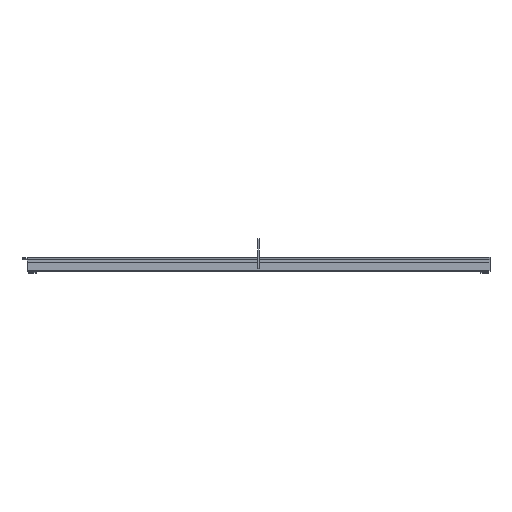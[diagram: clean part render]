
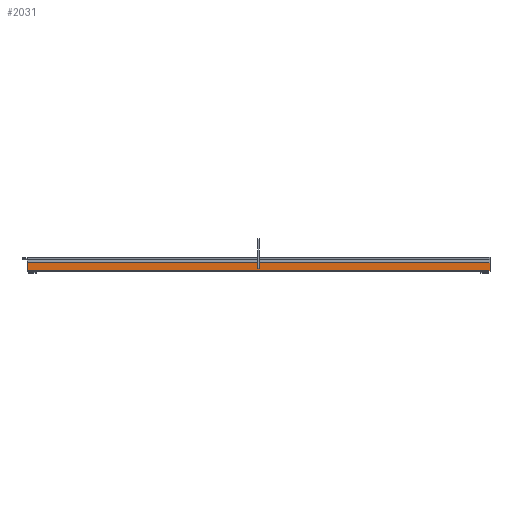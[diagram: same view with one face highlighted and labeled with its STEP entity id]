
A CAD part, left-side view. The second image highlights one B-rep face of the part: STEP entity #2031.
In plain terms, the highlighted planar face has unit normal (-1, 0, 0).
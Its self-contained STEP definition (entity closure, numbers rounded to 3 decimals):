
#962 = VECTOR ( 'NONE', #3016, 1000. ) ;
#1131 = LINE ( 'NONE', #16749, #3352 ) ;
#2031 = ADVANCED_FACE ( 'NONE', ( #17801 ), #17912, .F. ) ;
#2087 = VERTEX_POINT ( 'NONE', #17690 ) ;
#2904 = LINE ( 'NONE', #18635, #18734 ) ;
#3016 = DIRECTION ( 'NONE',  ( 0., -1., 0. ) ) ;
#3352 = VECTOR ( 'NONE', #10704, 1000. ) ;
#3555 = ORIENTED_EDGE ( 'NONE', *, *, #4968, .F. ) ;
#4287 = CARTESIAN_POINT ( 'NONE',  ( 105.281, 136.277, 0. ) ) ;
#4426 = CARTESIAN_POINT ( 'NONE',  ( 105.281, 101.727, 1800. ) ) ;
#4925 = EDGE_CURVE ( 'NONE', #9126, #2087, #2904, .T. ) ;
#4968 = EDGE_CURVE ( 'NONE', #16805, #9126, #7362, .T. ) ;
#5496 = DIRECTION ( 'NONE',  ( 0., 0., -1. ) ) ;
#6205 = ORIENTED_EDGE ( 'NONE', *, *, #13244, .T. ) ;
#7362 = LINE ( 'NONE', #17096, #962 ) ;
#8530 = AXIS2_PLACEMENT_3D ( 'NONE', #9795, #14726, #9895 ) ;
#8991 = EDGE_CURVE ( 'NONE', #10486, #2087, #1131, .T. ) ;
#9126 = VERTEX_POINT ( 'NONE', #4426 ) ;
#9195 = DIRECTION ( 'NONE',  ( 0., 0., -1. ) ) ;
#9795 = CARTESIAN_POINT ( 'NONE',  ( 105.281, 136.277, 1800. ) ) ;
#9895 = DIRECTION ( 'NONE',  ( 0., 0., -1. ) ) ;
#10486 = VERTEX_POINT ( 'NONE', #4287 ) ;
#10704 = DIRECTION ( 'NONE',  ( 0., -1., 0. ) ) ;
#11541 = LINE ( 'NONE', #16572, #17186 ) ;
#11927 = CARTESIAN_POINT ( 'NONE',  ( 105.281, 136.277, 1800. ) ) ;
#11938 = ORIENTED_EDGE ( 'NONE', *, *, #4925, .F. ) ;
#13244 = EDGE_CURVE ( 'NONE', #16805, #10486, #11541, .T. ) ;
#14726 = DIRECTION ( 'NONE',  ( 1., 0., 0. ) ) ;
#15993 = ORIENTED_EDGE ( 'NONE', *, *, #8991, .T. ) ;
#16572 = CARTESIAN_POINT ( 'NONE',  ( 105.281, 136.277, 1800. ) ) ;
#16749 = CARTESIAN_POINT ( 'NONE',  ( 105.281, 136.277, 0. ) ) ;
#16805 = VERTEX_POINT ( 'NONE', #11927 ) ;
#17083 = EDGE_LOOP ( 'NONE', ( #15993, #11938, #3555, #6205 ) ) ;
#17096 = CARTESIAN_POINT ( 'NONE',  ( 105.281, 136.277, 1800. ) ) ;
#17186 = VECTOR ( 'NONE', #5496, 1000. ) ;
#17690 = CARTESIAN_POINT ( 'NONE',  ( 105.281, 101.727, 0. ) ) ;
#17801 = FACE_OUTER_BOUND ( 'NONE', #17083, .T. ) ;
#17912 = PLANE ( 'NONE',  #8530 ) ;
#18635 = CARTESIAN_POINT ( 'NONE',  ( 105.281, 101.727, 1800. ) ) ;
#18734 = VECTOR ( 'NONE', #9195, 1000. ) ;
